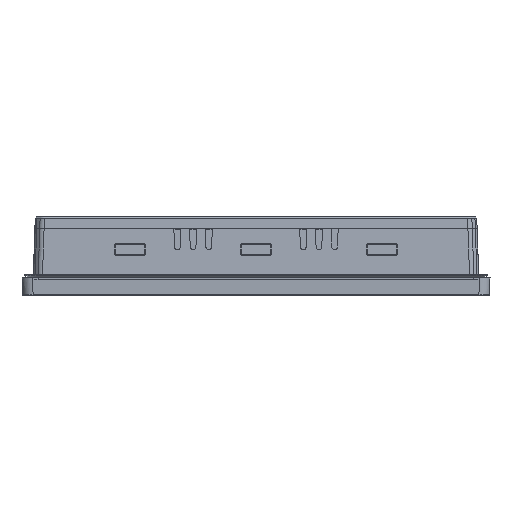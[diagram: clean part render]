
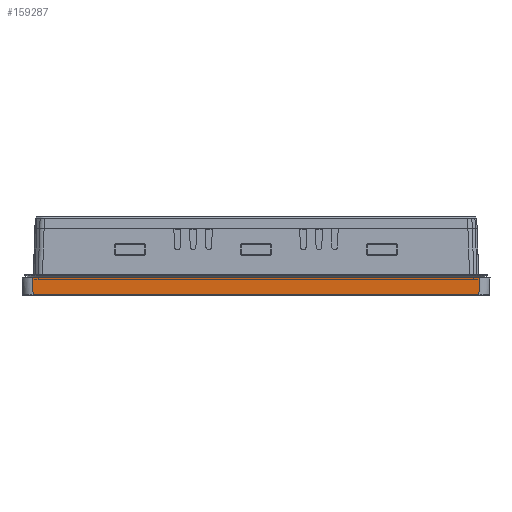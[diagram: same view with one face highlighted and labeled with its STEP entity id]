
A CAD part, left-side view. The second image highlights one B-rep face of the part: STEP entity #159287.
In plain terms, the highlighted planar face has unit normal (-0.999, 0, -0.035).
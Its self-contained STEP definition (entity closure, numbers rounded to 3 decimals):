
#647 = VERTEX_POINT ( 'NONE', #102900 ) ;
#1572 = EDGE_CURVE ( 'NONE', #647, #63990, #88735, .T. ) ;
#1996 = DIRECTION ( 'NONE',  ( -0.035, -0.035, 0.999 ) ) ;
#5735 = EDGE_LOOP ( 'NONE', ( #151911, #15588, #66383, #104594 ) ) ;
#6847 = CARTESIAN_POINT ( 'NONE',  ( -211.349, -127.853, 8. ) ) ;
#15588 = ORIENTED_EDGE ( 'NONE', *, *, #29047, .T. ) ;
#18123 = EDGE_CURVE ( 'NONE', #56201, #63062, #68673, .T. ) ;
#21466 = CARTESIAN_POINT ( 'NONE',  ( -211.007, -127.504, -1.807 ) ) ;
#23915 = PLANE ( 'NONE',  #162089 ) ;
#29047 = EDGE_CURVE ( 'NONE', #63062, #647, #58167, .T. ) ;
#31119 = CARTESIAN_POINT ( 'NONE',  ( -210.682, 127.186, -11.092 ) ) ;
#34817 = LINE ( 'NONE', #47342, #79649 ) ;
#45268 = DIRECTION ( 'NONE',  ( 0.035, -0.035, -0.999 ) ) ;
#47342 = CARTESIAN_POINT ( 'NONE',  ( -211.349, 0., 8. ) ) ;
#49748 = DIRECTION ( 'NONE',  ( -0.035, 0., 0.999 ) ) ;
#56201 = VERTEX_POINT ( 'NONE', #65456 ) ;
#58167 = LINE ( 'NONE', #21466, #133457 ) ;
#60647 = DIRECTION ( 'NONE',  ( 0., -1., 0. ) ) ;
#63062 = VERTEX_POINT ( 'NONE', #115099 ) ;
#63990 = VERTEX_POINT ( 'NONE', #6847 ) ;
#65456 = CARTESIAN_POINT ( 'NONE',  ( -211.349, 127.853, 8. ) ) ;
#66383 = ORIENTED_EDGE ( 'NONE', *, *, #1572, .T. ) ;
#68673 = LINE ( 'NONE', #31119, #110093 ) ;
#72873 = VECTOR ( 'NONE', #1996, 1000. ) ;
#79649 = VECTOR ( 'NONE', #137410, 1000. ) ;
#88735 = LINE ( 'NONE', #102093, #72873 ) ;
#102093 = CARTESIAN_POINT ( 'NONE',  ( -211.007, -127.511, -1.791 ) ) ;
#102900 = CARTESIAN_POINT ( 'NONE',  ( -211.007, -127.51, -1.807 ) ) ;
#104594 = ORIENTED_EDGE ( 'NONE', *, *, #159837, .F. ) ;
#110093 = VECTOR ( 'NONE', #45268, 1000. ) ;
#113147 = CARTESIAN_POINT ( 'NONE',  ( -211., -133.5, -2. ) ) ;
#115099 = CARTESIAN_POINT ( 'NONE',  ( -211.007, 127.51, -1.807 ) ) ;
#133457 = VECTOR ( 'NONE', #60647, 1000. ) ;
#137410 = DIRECTION ( 'NONE',  ( 0., -1., 0. ) ) ;
#138188 = FACE_OUTER_BOUND ( 'NONE', #5735, .T. ) ;
#151911 = ORIENTED_EDGE ( 'NONE', *, *, #18123, .T. ) ;
#159287 = ADVANCED_FACE ( 'NONE', ( #138188 ), #23915, .T. ) ;
#159837 = EDGE_CURVE ( 'NONE', #56201, #63990, #34817, .T. ) ;
#162089 = AXIS2_PLACEMENT_3D ( 'NONE', #113147, #164041, #49748 ) ;
#164041 = DIRECTION ( 'NONE',  ( -0.999, 0., -0.035 ) ) ;
